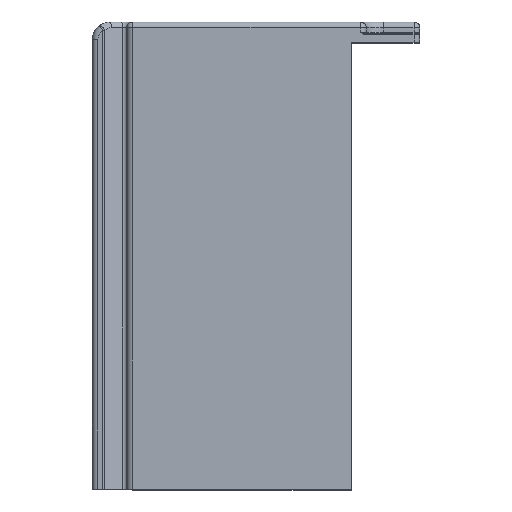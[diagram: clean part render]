
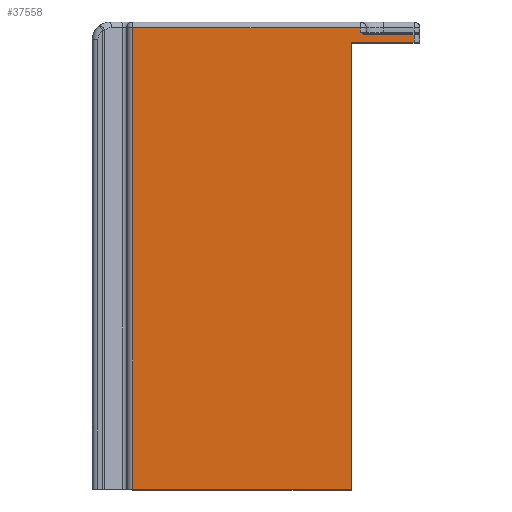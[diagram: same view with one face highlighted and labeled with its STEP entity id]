
A CAD part, top view. The second image highlights one B-rep face of the part: STEP entity #37558.
In plain terms, the highlighted planar face has unit normal (0, 0, 1).
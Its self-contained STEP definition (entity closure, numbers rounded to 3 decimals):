
#13939=DIRECTION('',(0.,1.,0.));
#13940=VECTOR('',#13939,0.8);
#13941=CARTESIAN_POINT('',(-64.,31.7,45.));
#13942=LINE('',#13941,#13940);
#13943=CARTESIAN_POINT('',(-63.702,31.5,45.));
#13944=CARTESIAN_POINT('',(-63.677,31.485,
45.));
#13945=CARTESIAN_POINT('',(-63.629,31.457,
45.));
#13946=CARTESIAN_POINT('',(-63.562,31.422,
45.));
#13947=CARTESIAN_POINT('',(-63.499,31.392,
45.));
#13948=CARTESIAN_POINT('',(-63.44,31.368,
45.));
#13949=CARTESIAN_POINT('',(-63.385,31.348,
45.));
#13950=CARTESIAN_POINT('',(-63.332,31.332,
45.));
#13951=CARTESIAN_POINT('',(-63.281,31.319,
45.));
#13952=CARTESIAN_POINT('',(-63.231,31.31,
45.));
#13953=CARTESIAN_POINT('',(-63.185,31.304,
45.));
#13954=CARTESIAN_POINT('',(-63.143,31.301,
45.));
#13955=CARTESIAN_POINT('',(-63.118,31.3,
45.));
#13956=CARTESIAN_POINT('',(-63.106,31.3,45.));
#13958=DIRECTION('',(1.,0.,0.));
#13959=VECTOR('',#13958,8.406);
#13960=CARTESIAN_POINT('',(-63.106,31.3,45.));
#13961=LINE('',#13960,#13959);
#13962=DIRECTION('',(0.,1.,0.));
#13963=VECTOR('',#13962,1.3);
#13964=CARTESIAN_POINT('',(-54.7,30.,45.));
#13965=LINE('',#13964,#13963);
#13966=DIRECTION('',(1.,0.,0.));
#13967=VECTOR('',#13966,10.9);
#13968=CARTESIAN_POINT('',(-65.6,30.,45.));
#13969=LINE('',#13968,#13967);
#13970=DIRECTION('',(0.,1.,0.));
#13971=VECTOR('',#13970,77.5);
#13972=CARTESIAN_POINT('',(-65.6,-47.5,45.));
#13973=LINE('',#13972,#13971);
#13974=DIRECTION('',(-1.,0.,0.));
#13975=VECTOR('',#13974,37.9);
#13976=CARTESIAN_POINT('',(-65.6,-47.5,45.));
#13977=LINE('',#13976,#13975);
#13978=DIRECTION('',(0.,-1.,0.));
#13979=VECTOR('',#13978,80.);
#13980=CARTESIAN_POINT('',(-103.5,32.5,45.));
#13981=LINE('',#13980,#13979);
#13982=DIRECTION('',(-1.,0.,0.));
#13983=VECTOR('',#13982,39.5);
#13984=CARTESIAN_POINT('',(-64.,32.5,45.));
#13985=LINE('',#13984,#13983);
#13993=CARTESIAN_POINT('',(-64.,31.7,45.));
#13994=CARTESIAN_POINT('',(-63.963,31.674,
45.));
#13995=CARTESIAN_POINT('',(-63.892,31.624,
45.));
#13996=CARTESIAN_POINT('',(-63.794,31.557,
45.));
#13997=CARTESIAN_POINT('',(-63.732,31.518,
45.));
#13998=CARTESIAN_POINT('',(-63.702,31.5,45.));
#17905=CARTESIAN_POINT('',(-65.6,-47.5,45.));
#17906=VERTEX_POINT('',#17905);
#17911=CARTESIAN_POINT('',(-65.6,30.,45.));
#17912=VERTEX_POINT('',#17911);
#18326=CARTESIAN_POINT('',(-64.,31.7,45.));
#18328=VERTEX_POINT('',#18326);
#18337=CARTESIAN_POINT('',(-63.106,31.3,45.));
#18338=VERTEX_POINT('',#18337);
#18528=CARTESIAN_POINT('',(-103.5,-47.5,45.));
#18530=VERTEX_POINT('',#18528);
#18534=CARTESIAN_POINT('',(-64.,32.5,45.));
#18535=VERTEX_POINT('',#18534);
#18612=CARTESIAN_POINT('',(-103.5,32.5,45.));
#18613=VERTEX_POINT('',#18612);
#18813=CARTESIAN_POINT('',(-54.7,30.,45.));
#18815=VERTEX_POINT('',#18813);
#18836=CARTESIAN_POINT('',(-54.7,31.3,45.));
#18837=VERTEX_POINT('',#18836);
#19006=VERTEX_POINT('',#13943);
#37537=CARTESIAN_POINT('',(0.,0.,45.));
#37538=DIRECTION('',(0.,0.,1.));
#37539=DIRECTION('',(1.,0.,0.));
#37540=AXIS2_PLACEMENT_3D('',#37537,#37538,#37539);
#37541=PLANE('',#37540);
#37542=ORIENTED_EDGE('',*,*,#37371,.F.);
#37544=ORIENTED_EDGE('',*,*,#37543,.T.);
#37545=ORIENTED_EDGE('',*,*,#37516,.T.);
#37546=ORIENTED_EDGE('',*,*,#37532,.T.);
#37547=ORIENTED_EDGE('',*,*,#37130,.F.);
#37548=ORIENTED_EDGE('',*,*,#22862,.F.);
#37550=ORIENTED_EDGE('',*,*,#37549,.F.);
#37551=ORIENTED_EDGE('',*,*,#28680,.T.);
#37553=ORIENTED_EDGE('',*,*,#37552,.F.);
#37555=ORIENTED_EDGE('',*,*,#37554,.F.);
#37556=EDGE_LOOP('',(#37542,#37544,#37545,#37546,#37547,#37548,#37550,#37551,
#37553,#37555));
#37557=FACE_OUTER_BOUND('',#37556,.F.);
#37558=ADVANCED_FACE('',(#37557),#37541,.T.);
#13957=B_SPLINE_CURVE_WITH_KNOTS('',3,(#13943,#13944,#13945,#13946,#13947,
#13948,#13949,#13950,#13951,#13952,#13953,#13954,#13955,#13956),.UNSPECIFIED.,
.F.,.F.,(4,1,1,1,1,1,1,1,1,1,1,4),(0.,0.091,0.182,
0.273,0.364,0.455,0.545,
0.636,0.727,0.818,0.909,1.),
.UNSPECIFIED.);
#13999=B_SPLINE_CURVE_WITH_KNOTS('',3,(#13993,#13994,#13995,#13996,#13997,
#13998),.UNSPECIFIED.,.F.,.F.,(4,1,1,4),(0.,0.333,
0.667,1.),.UNSPECIFIED.);
#22862=EDGE_CURVE('',#17912,#18815,#13969,.T.);
#28680=EDGE_CURVE('',#17906,#18530,#13977,.T.);
#37130=EDGE_CURVE('',#18815,#18837,#13965,.T.);
#37371=EDGE_CURVE('',#18328,#18535,#13942,.T.);
#37516=EDGE_CURVE('',#19006,#18338,#13957,.T.);
#37532=EDGE_CURVE('',#18338,#18837,#13961,.T.);
#37543=EDGE_CURVE('',#18328,#19006,#13999,.T.);
#37549=EDGE_CURVE('',#17906,#17912,#13973,.T.);
#37552=EDGE_CURVE('',#18613,#18530,#13981,.T.);
#37554=EDGE_CURVE('',#18535,#18613,#13985,.T.);
